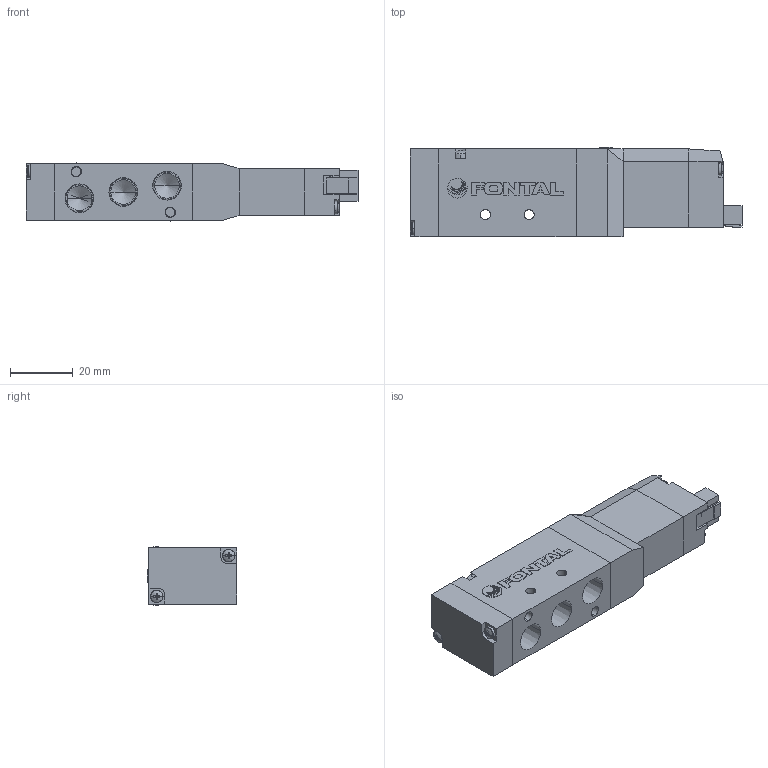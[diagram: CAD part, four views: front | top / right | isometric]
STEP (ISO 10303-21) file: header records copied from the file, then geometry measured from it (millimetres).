
FILE_DESCRIPTION (( 'STEP AP203' ), '1' );
FILE_NAME ('RCS2413-01-#-SP-#.STEP', '2016-02-04T05:24:15', ( 'Sam Lin' ), ( '' ), 'SwSTEP 2.0', 'SolidWorks 2013', '' );
FILE_SCHEMA (( 'CONFIG_CONTROL_DESIGN' ));
Length unit declared in the file: metre
Products named in the file (11): PC13-6; PC5-6; PC13-7; PC13-8; PC13-3-3413; PC13-9; PC13-2; RCS2413-01-#-SP-#; ISO 7045 - M2 x 10; PC13-MARK; ISO 7045 - M3 x 20
Assembly tree (14 placements, depth 2):
  RCS2413-01-#-SP-#
    PC13-3-3413
    PC13-2
    ISO 7045 - M2 x 10  x4
    PC13-MARK
    ISO 7045 - M3 x 20  x2
    PC13-6
    PC5-6
    PC13-7
    PC13-8
    PC13-9
Bounding box: 106.07 x 28.5 x 18.6 mm (x, y, z)
Volume: 41906.6 mm3; surface area: 17893.5 mm2
Topology: 21 solids, 21 shells, 529 faces, 1297 edges, 806 vertices
Faces by surface type: plane 313, cylinder 86, cone 86, bspline 44
Entity records: 12096 total; most frequent: CARTESIAN_POINT 2393, ORIENTED_EDGE 1750, DIRECTION 1717, EDGE_CURVE 875, LINE 577, VECTOR 577, AXIS2_PLACEMENT_3D 570, VERTEX_POINT 566
